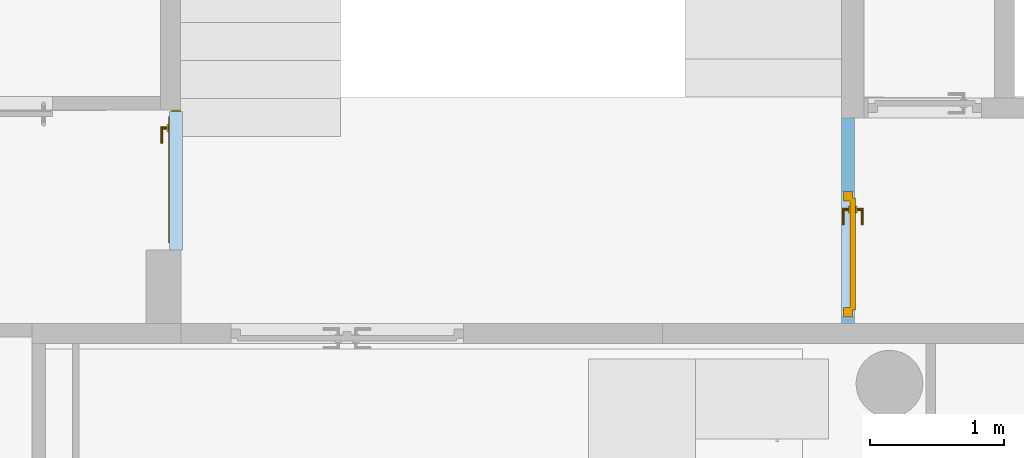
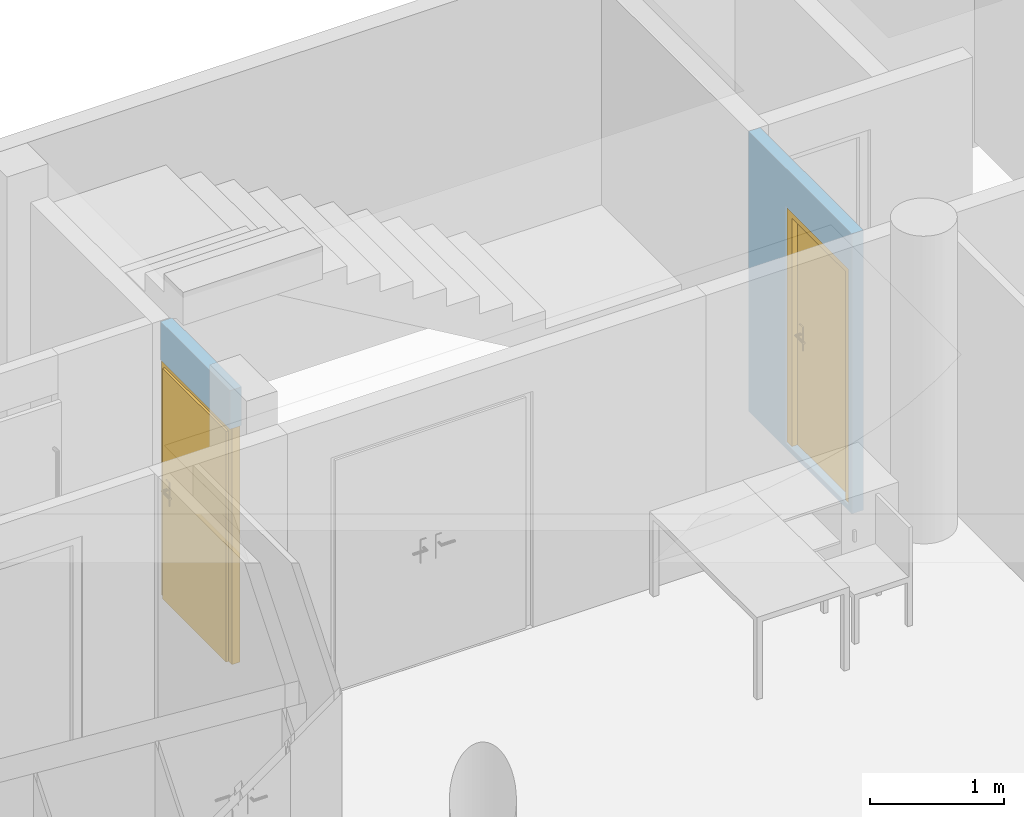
"""IFC4 building model written with IfcOpenShell, lengths in metres."""

from ifc_helpers import new_model, entity, si_unit, converted_unit, derived_unit, frame, frame_2d, origin, origin_with_axes, place, context, subcontext, project, spatial, polyline, rectangle, outline, extrude, faceted_brep, source, transform, mapped, material, layer, layer_set, layer_usage, element, fill, save


model = new_model("IFC4")

# Units and contexts
model_context = context("Model", 3, precision=1e-05, world=origin())
body_context = subcontext(model_context, "Body", "Model", "MODEL_VIEW")
ifc_project = project(units=[si_unit("LENGTHUNIT", "METRE"), si_unit("AREAUNIT", "SQUARE_METRE"), si_unit("VOLUMEUNIT", "CUBIC_METRE"), si_unit("MASSUNIT", "GRAM", prefix="KILO"), converted_unit("PLANEANGLEUNIT", "DEGREE", entity("IfcPlaneAngleMeasure", 0.0174532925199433), si_unit("PLANEANGLEUNIT", "RADIAN"), dimensions=[0, 0, 0, 0, 0, 0, 0]), derived_unit("THERMALTRANSMITTANCEUNIT", [(si_unit("POWERUNIT", "WATT"), 1), (si_unit("THERMODYNAMICTEMPERATUREUNIT", "KELVIN"), -1), (si_unit("LENGTHUNIT", "METRE"), -2)]), derived_unit("VOLUMETRICFLOWRATEUNIT", [(si_unit("LENGTHUNIT", "METRE"), 3), (converted_unit("TIMEUNIT", "hour", entity("IfcTimeMeasure", 3600.0), si_unit("TIMEUNIT", "SECOND"), dimensions=[0, 0, 1, 0, 0, 0, 0]), -1), (si_unit("LENGTHUNIT", "METRE"), -1)])], contexts=[model_context])

# Building, storeys
building_placement = place(None, origin())
building = spatial("IfcBuilding", under=ifc_project, at=building_placement, Name="HABITATGE PLURIFAMILIAR", CompositionType="ELEMENT")
storey_1_placement = place(building_placement, frame((0.0, 0.0, 3.35)))
storey_1 = spatial("IfcBuildingStorey", under=building, at=storey_1_placement, Name="PLANTA  ALTELL", CompositionType="ELEMENT", Elevation=3.35)
storey_2_placement = place(storey_1_placement, origin())
storey_2 = spatial("IfcBuildingStorey", under=storey_1, at=storey_2_placement, Name="NOU", CompositionType="PARTIAL")

# Wall, opening, door
ifc_material_1 = material()
ifc_layer_1 = layer(ifc_material_1, 0.1)
ifc_layer_set_1 = layer_set([ifc_layer_1])
ifc_layer_usage_1 = layer_usage(ifc_layer_set_1, "AXIS2", "POSITIVE", 0.0)
wall_1_placement = place(storey_2_placement, frame((410.842773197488, 24.9023035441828, 0.0), z_axis=(0.0, 0.0, 1.0), x_axis=(0.0, 1.0, 0.0)))
wall_1 = element("IfcWall", 1, at=wall_1_placement, inside=storey_2, material=ifc_layer_usage_1, Name="Evans PA", context=body_context, shape_type="SweptSolid", body=[
    extrude(rectangle(XDim=1.03683267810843, YDim=0.1, at=frame_2d((0.518416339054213, 0.05), x_axis=(1.0, 0.0))), origin_with_axes(), (0.0, 0.0, 1.0), 2.5),
])
opening_1_placement = place(wall_1_placement, frame((0.0, 0.0, 0.0), z_axis=(0.0, 1.0, 0.0), x_axis=(0.0, 0.0, 1.0)))
opening_1 = element("IfcOpeningElement", 2, at=opening_1_placement, cuts=wall_1, Name="Vano de puerta PA", ObjectType="Opening", context=body_context, shape_type="SweptSolid", body=[
    extrude(outline(polyline([(2.15, 1.04683267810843), (2.15, 0.0), (0.0, 0.0), (0.0, 1.04683267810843), (2.15, 1.04683267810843)])), origin_with_axes(), (0.0, 0.0, 1.0), 0.1),
])
shared_shape_1 = source(origin_with_axes(), body_context, "Body", "Brep", [
    faceted_brep([(1.04683267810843, 0.0700000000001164, 2.15), (0.976832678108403, 0.0700000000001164, 2.15), (0.976832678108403, 0.0700000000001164, 0.0), (1.04683267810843, 0.0700000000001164, 0.0), (1.04683267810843, 0.0, 0.0), (0.976832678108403, 0.0, 0.0), (0.976832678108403, 0.0, 2.15), (1.04683267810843, 0.0, 2.15)], [[[0, 1, 2, 3]], [[4, 5, 6, 7]], [[3, 4, 7, 0]], [[2, 5, 4, 3]], [[1, 6, 5, 2]], [[0, 7, 6, 1]]], orient=[[False], [False], [False], [False], [False], [False]]),
    faceted_brep([(0.0700000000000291, 0.0700000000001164, 2.15), (0.0, 0.0700000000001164, 2.15), (0.0, 0.0700000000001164, 0.0), (0.0700000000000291, 0.0700000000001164, 0.0), (0.0700000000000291, 0.0, 0.0), (0.0, 0.0, 0.0), (0.0, 0.0, 2.15), (0.0700000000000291, 0.0, 2.15)], [[[0, 1, 2, 3]], [[4, 5, 6, 7]], [[3, 4, 7, 0]], [[2, 5, 4, 3]], [[1, 6, 5, 2]], [[0, 7, 6, 1]]], orient=[[False], [False], [False], [False], [False], [False]]),
    faceted_brep([(0.976832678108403, 0.0700000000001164, 2.15), (0.0700000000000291, 0.0700000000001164, 2.15), (0.0700000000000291, 0.0700000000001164, 2.08), (0.976832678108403, 0.0700000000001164, 2.08), (0.976832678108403, 0.0, 2.08), (0.0700000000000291, 0.0, 2.08), (0.0700000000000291, 0.0, 2.15), (0.976832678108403, 0.0, 2.15)], [[[0, 1, 2, 3]], [[4, 5, 6, 7]], [[3, 4, 7, 0]], [[2, 5, 4, 3]], [[1, 6, 5, 2]], [[0, 7, 6, 1]]], orient=[[False], [False], [False], [False], [False], [False]]),
    faceted_brep([(0.996832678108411, 0.0900000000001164, 2.1), (0.0500000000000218, 0.0900000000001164, 2.1), (0.0500000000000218, 0.0900000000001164, 0.0), (0.996832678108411, 0.0900000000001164, 0.0), (0.996832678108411, 0.0500000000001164, 0.0), (0.0500000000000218, 0.0500000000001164, 0.0), (0.0500000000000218, 0.0500000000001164, 2.1), (0.996832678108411, 0.0500000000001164, 2.1)], [[[0, 1, 2, 3]], [[4, 5, 6, 7]], [[3, 4, 7, 0]], [[2, 5, 4, 3]], [[1, 6, 5, 2]], [[0, 7, 6, 1]]], orient=[[False], [False], [False], [False], [False], [False]]),
    faceted_brep([(0.936832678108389, 0.0500000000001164, 1.125), (0.886832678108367, 0.0500000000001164, 1.125), (0.886832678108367, 0.0500000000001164, 0.91), (0.936832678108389, 0.0500000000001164, 0.91), (0.936832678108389, 0.0400000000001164, 0.91), (0.886832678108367, 0.0400000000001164, 0.91), (0.886832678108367, 0.0400000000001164, 1.125), (0.936832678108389, 0.0400000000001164, 1.125)], [[[0, 1, 2, 3]], [[4, 5, 6, 7]], [[3, 4, 7, 0]], [[2, 5, 4, 3]], [[1, 6, 5, 2]], [[0, 7, 6, 1]]], orient=[[False], [False], [False], [False], [False], [False]]),
    faceted_brep([(0.911832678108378, 0.0400000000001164, 1.06), (0.906832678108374, 0.0400000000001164, 1.05866025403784), (0.90317242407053, 0.0400000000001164, 1.055), (0.901832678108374, 0.0400000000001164, 1.05), (0.90317242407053, 0.0400000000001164, 1.045), (0.906832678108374, 0.0400000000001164, 1.04133974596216), (0.911832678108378, 0.0400000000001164, 1.04), (0.916832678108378, 0.0400000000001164, 1.04133974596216), (0.920492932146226, 0.0400000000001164, 1.045), (0.921832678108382, 0.0400000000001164, 1.05), (0.920492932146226, 0.0400000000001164, 1.055), (0.916832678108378, 0.0400000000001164, 1.05866025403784), (0.916832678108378, -0.00499999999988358, 1.05866025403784), (0.911832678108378, 0.0, 1.06), (0.920492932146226, -0.00866025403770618, 1.055), (0.921832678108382, -0.00999999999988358, 1.05), (0.920492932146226, -0.00866025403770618, 1.045), (0.916832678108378, -0.00499999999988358, 1.04133974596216), (0.911832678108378, 0.0, 1.04), (0.906832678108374, 0.00500000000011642, 1.04133974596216), (0.90317242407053, 0.00866025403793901, 1.045), (0.901832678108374, 0.0100000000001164, 1.05), (0.90317242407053, 0.00866025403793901, 1.055), (0.906832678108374, 0.00500000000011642, 1.05866025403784), (0.796832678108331, 0.0, 1.06), (0.796832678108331, -0.00499999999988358, 1.05866025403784), (0.796832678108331, -0.00866025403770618, 1.055), (0.796832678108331, -0.00999999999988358, 1.05), (0.796832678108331, -0.00866025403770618, 1.045), (0.796832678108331, -0.00499999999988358, 1.04133974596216), (0.796832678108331, 0.0, 1.04), (0.796832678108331, 0.00500000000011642, 1.04133974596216), (0.796832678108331, 0.00866025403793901, 1.045), (0.796832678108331, 0.0100000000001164, 1.05), (0.796832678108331, 0.00866025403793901, 1.055), (0.796832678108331, 0.00500000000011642, 1.05866025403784)], [[[0, 1, 2, 3, 4, 5, 6, 7, 8, 9, 10, 11]], [[0, 11, 12, 13]], [[11, 10, 14, 12]], [[10, 9, 15, 14]], [[9, 8, 16, 15]], [[8, 7, 17, 16]], [[7, 6, 18, 17]], [[6, 5, 19, 18]], [[5, 4, 20, 19]], [[4, 3, 21, 20]], [[3, 2, 22, 21]], [[2, 1, 23, 22]], [[1, 0, 13, 23]], [[24, 25, 26, 27, 28, 29, 30, 31, 32, 33, 34, 35]], [[13, 12, 25, 24]], [[12, 14, 26, 25]], [[14, 15, 27, 26]], [[15, 16, 28, 27]], [[16, 17, 29, 28]], [[17, 18, 30, 29]], [[18, 19, 31, 30]], [[19, 20, 32, 31]], [[20, 21, 33, 32]], [[21, 22, 34, 33]], [[22, 23, 35, 34]], [[23, 13, 24, 35]]], orient=[[False], [False], [False], [False], [False], [False], [False], [False], [False], [False], [False], [False], [False], [False], [False], [False], [False], [False], [False], [False], [False], [False], [False], [False], [False], [False]]),
    faceted_brep([(0.936832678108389, 0.0900000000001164, 1.125), (0.936832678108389, 0.0900000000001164, 0.91), (0.886832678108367, 0.0900000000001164, 0.91), (0.886832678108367, 0.0900000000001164, 1.125), (0.936832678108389, 0.100000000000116, 0.91), (0.936832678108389, 0.100000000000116, 1.125), (0.886832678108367, 0.100000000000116, 1.125), (0.886832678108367, 0.100000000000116, 0.91)], [[[0, 1, 2, 3]], [[4, 5, 6, 7]], [[1, 0, 5, 4]], [[2, 1, 4, 7]], [[3, 2, 7, 6]], [[0, 3, 6, 5]]], orient=[[False], [False], [False], [False], [False], [False]]),
    faceted_brep([(0.911832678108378, 0.100000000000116, 1.06), (0.916832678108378, 0.100000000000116, 1.05866025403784), (0.920492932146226, 0.100000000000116, 1.055), (0.921832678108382, 0.100000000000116, 1.05), (0.920492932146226, 0.100000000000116, 1.045), (0.916832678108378, 0.100000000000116, 1.04133974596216), (0.911832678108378, 0.100000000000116, 1.04), (0.906832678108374, 0.100000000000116, 1.04133974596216), (0.90317242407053, 0.100000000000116, 1.045), (0.901832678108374, 0.100000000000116, 1.05), (0.90317242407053, 0.100000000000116, 1.055), (0.906832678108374, 0.100000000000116, 1.05866025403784), (0.911832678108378, 0.140000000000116, 1.06), (0.916832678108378, 0.145000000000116, 1.05866025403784), (0.920492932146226, 0.148660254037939, 1.055), (0.921832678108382, 0.150000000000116, 1.05), (0.920492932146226, 0.148660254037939, 1.045), (0.916832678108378, 0.145000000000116, 1.04133974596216), (0.911832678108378, 0.140000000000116, 1.04), (0.906832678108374, 0.135000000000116, 1.04133974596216), (0.90317242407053, 0.131339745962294, 1.045), (0.901832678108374, 0.130000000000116, 1.05), (0.90317242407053, 0.131339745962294, 1.055), (0.906832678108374, 0.135000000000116, 1.05866025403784), (0.796832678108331, 0.140000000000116, 1.06), (0.796832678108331, 0.135000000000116, 1.05866025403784), (0.796832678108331, 0.131339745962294, 1.055), (0.796832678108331, 0.130000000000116, 1.05), (0.796832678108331, 0.131339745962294, 1.045), (0.796832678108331, 0.135000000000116, 1.04133974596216), (0.796832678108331, 0.140000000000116, 1.04), (0.796832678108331, 0.145000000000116, 1.04133974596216), (0.796832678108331, 0.148660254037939, 1.045), (0.796832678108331, 0.150000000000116, 1.05), (0.796832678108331, 0.148660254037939, 1.055), (0.796832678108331, 0.145000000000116, 1.05866025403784)], [[[0, 1, 2, 3, 4, 5, 6, 7, 8, 9, 10, 11]], [[0, 12, 13, 1]], [[1, 13, 14, 2]], [[2, 14, 15, 3]], [[3, 15, 16, 4]], [[4, 16, 17, 5]], [[5, 17, 18, 6]], [[6, 18, 19, 7]], [[7, 19, 20, 8]], [[8, 20, 21, 9]], [[9, 21, 22, 10]], [[10, 22, 23, 11]], [[11, 23, 12, 0]], [[24, 25, 26, 27, 28, 29, 30, 31, 32, 33, 34, 35]], [[12, 24, 35, 13]], [[13, 35, 34, 14]], [[14, 34, 33, 15]], [[15, 33, 32, 16]], [[16, 32, 31, 17]], [[17, 31, 30, 18]], [[18, 30, 29, 19]], [[19, 29, 28, 20]], [[20, 28, 27, 21]], [[21, 27, 26, 22]], [[22, 26, 25, 23]], [[23, 25, 24, 12]]], orient=[[False], [False], [False], [False], [False], [False], [False], [False], [False], [False], [False], [False], [False], [False], [False], [False], [False], [False], [False], [False], [False], [False], [False], [False], [False], [False]]),
])
door_1_placement = place(opening_1_placement, frame((0.0, 0.0, 0.015), z_axis=(1.0, 0.0, 0.0), x_axis=(0.0, 1.0, 0.0)))
door_1 = element("IfcDoor", 3, at=door_1_placement, inside=storey_2, Name="Porta PA", OperationType="USERDEFINED", OverallHeight=2.15, OverallWidth=1.04683, PredefinedType="DOOR", context=body_context, shape_type="MappedRepresentation", body=[
    mapped(shared_shape_1, transform((0.0, 0.0, 0.0), x_axis=(1.0, 0.0, 0.0), y_axis=(0.0, 1.0, 0.0), z_axis=(0.0, 0.0, 1.0), scale=1.0)),
])
fill(opening_1, door_1)

ifc_material_2 = material()
ifc_layer_2 = layer(ifc_material_2, 0.1)
ifc_layer_set_2 = layer_set([ifc_layer_2])
ifc_layer_usage_2 = layer_usage(ifc_layer_set_2, "AXIS2", "POSITIVE", 0.0)
wall_2_placement = place(storey_2_placement, frame((415.876931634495, 24.3495914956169, -0.05), z_axis=(0.0, 0.0, 1.0), x_axis=(0.0, 1.0, 0.0)))
wall_2 = element("IfcWall", 4, at=wall_2_placement, inside=storey_2, material=ifc_layer_usage_2, Name="Evans PA", context=body_context, shape_type="SweptSolid", body=[
    extrude(rectangle(XDim=1.54000000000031, YDim=0.1, at=frame_2d((0.770000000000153, 0.05), x_axis=(1.0, 0.0))), origin_with_axes(), (0.0, 0.0, 1.0), 2.55),
])
opening_2_placement = place(wall_2_placement, frame((0.0499652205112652, 0.0, 0.05), z_axis=(0.0, 1.0, 0.0), x_axis=(0.0, 0.0, 1.0)))
opening_2 = element("IfcOpeningElement", 5, at=opening_2_placement, cuts=wall_2, Name="Vano de puerta PA", ObjectType="Opening", context=body_context, shape_type="SweptSolid", body=[
    extrude(outline(polyline([(2.15, 0.94), (2.15, 0.0), (0.0, 0.0), (0.0, 0.94), (2.15, 0.94)])), origin_with_axes(), (0.0, 0.0, 1.0), 0.1),
])
shared_shape_2 = source(origin_with_axes(), body_context, "Body", "Brep", [
    faceted_brep([(0.0, 0.0699999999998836, 2.15), (0.0, 0.0699999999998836, 0.0), (0.0700000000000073, 0.0699999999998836, 0.0), (0.0700000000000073, 0.0699999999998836, 2.15), (0.0, 0.0, 0.0), (0.0, 0.0, 2.15), (0.0700000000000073, 0.0, 2.15), (0.0700000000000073, 0.0, 0.0)], [[[0, 1, 2, 3]], [[4, 5, 6, 7]], [[1, 0, 5, 4]], [[2, 1, 4, 7]], [[3, 2, 7, 6]], [[0, 3, 6, 5]]], orient=[[False], [False], [False], [False], [False], [False]]),
    faceted_brep([(0.870000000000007, 0.0699999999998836, 2.15), (0.870000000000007, 0.0699999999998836, 0.0), (0.940000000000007, 0.0699999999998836, 0.0), (0.940000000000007, 0.0699999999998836, 2.15), (0.870000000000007, 0.0, 0.0), (0.870000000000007, 0.0, 2.15), (0.940000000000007, 0.0, 2.15), (0.940000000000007, 0.0, 0.0)], [[[0, 1, 2, 3]], [[4, 5, 6, 7]], [[1, 0, 5, 4]], [[2, 1, 4, 7]], [[3, 2, 7, 6]], [[0, 3, 6, 5]]], orient=[[False], [False], [False], [False], [False], [False]]),
    faceted_brep([(0.0700000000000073, 0.0699999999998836, 2.15), (0.0700000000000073, 0.0699999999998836, 2.08), (0.870000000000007, 0.0699999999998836, 2.08), (0.870000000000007, 0.0699999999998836, 2.15), (0.0700000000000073, 0.0, 2.08), (0.0700000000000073, 0.0, 2.15), (0.870000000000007, 0.0, 2.15), (0.870000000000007, 0.0, 2.08)], [[[0, 1, 2, 3]], [[4, 5, 6, 7]], [[1, 0, 5, 4]], [[2, 1, 4, 7]], [[3, 2, 7, 6]], [[0, 3, 6, 5]]], orient=[[False], [False], [False], [False], [False], [False]]),
    faceted_brep([(0.0500000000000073, 0.0899999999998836, 2.1), (0.0500000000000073, 0.0899999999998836, 0.0), (0.890000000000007, 0.0899999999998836, 0.0), (0.890000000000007, 0.0899999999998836, 2.1), (0.0500000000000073, 0.0499999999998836, 0.0), (0.0500000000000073, 0.0499999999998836, 2.1), (0.890000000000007, 0.0499999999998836, 2.1), (0.890000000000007, 0.0499999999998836, 0.0)], [[[0, 1, 2, 3]], [[4, 5, 6, 7]], [[1, 0, 5, 4]], [[2, 1, 4, 7]], [[3, 2, 7, 6]], [[0, 3, 6, 5]]], orient=[[False], [False], [False], [False], [False], [False]]),
    faceted_brep([(0.110000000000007, 0.0499999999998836, 1.125), (0.110000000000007, 0.0499999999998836, 0.91), (0.160000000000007, 0.0499999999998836, 0.91), (0.160000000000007, 0.0499999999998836, 1.125), (0.110000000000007, 0.0399999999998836, 0.91), (0.110000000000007, 0.0399999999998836, 1.125), (0.160000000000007, 0.0399999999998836, 1.125), (0.160000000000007, 0.0399999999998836, 0.91)], [[[0, 1, 2, 3]], [[4, 5, 6, 7]], [[1, 0, 5, 4]], [[2, 1, 4, 7]], [[3, 2, 7, 6]], [[0, 3, 6, 5]]], orient=[[False], [False], [False], [False], [False], [False]]),
    faceted_brep([(0.135000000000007, 0.0399999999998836, 1.06), (0.130000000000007, 0.0399999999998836, 1.05866025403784), (0.126339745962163, 0.0399999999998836, 1.055), (0.125000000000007, 0.0399999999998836, 1.05), (0.126339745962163, 0.0399999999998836, 1.045), (0.130000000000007, 0.0399999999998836, 1.04133974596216), (0.135000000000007, 0.0399999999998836, 1.04), (0.140000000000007, 0.0399999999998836, 1.04133974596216), (0.143660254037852, 0.0399999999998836, 1.045), (0.145000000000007, 0.0399999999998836, 1.05), (0.143660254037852, 0.0399999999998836, 1.055), (0.140000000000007, 0.0399999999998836, 1.05866025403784), (0.135000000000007, 0.0, 1.06), (0.130000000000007, -0.00500000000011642, 1.05866025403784), (0.126339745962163, -0.00866025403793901, 1.055), (0.125000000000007, -0.0100000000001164, 1.05), (0.126339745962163, -0.00866025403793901, 1.045), (0.130000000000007, -0.00500000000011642, 1.04133974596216), (0.135000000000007, 0.0, 1.04), (0.140000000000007, 0.00499999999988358, 1.04133974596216), (0.143660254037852, 0.00866025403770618, 1.045), (0.145000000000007, 0.00999999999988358, 1.05), (0.143660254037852, 0.00866025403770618, 1.055), (0.140000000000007, 0.00499999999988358, 1.05866025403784), (0.250000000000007, 0.0, 1.06), (0.250000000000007, 0.00499999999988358, 1.05866025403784), (0.250000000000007, 0.00866025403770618, 1.055), (0.250000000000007, 0.00999999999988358, 1.05), (0.250000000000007, 0.00866025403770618, 1.045), (0.250000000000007, 0.00499999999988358, 1.04133974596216), (0.250000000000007, 0.0, 1.04), (0.250000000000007, -0.00500000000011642, 1.04133974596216), (0.250000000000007, -0.00866025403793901, 1.045), (0.250000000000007, -0.0100000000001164, 1.05), (0.250000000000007, -0.00866025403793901, 1.055), (0.250000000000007, -0.00500000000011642, 1.05866025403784)], [[[0, 1, 2, 3, 4, 5, 6, 7, 8, 9, 10, 11]], [[0, 12, 13, 1]], [[1, 13, 14, 2]], [[2, 14, 15, 3]], [[3, 15, 16, 4]], [[4, 16, 17, 5]], [[5, 17, 18, 6]], [[6, 18, 19, 7]], [[7, 19, 20, 8]], [[8, 20, 21, 9]], [[9, 21, 22, 10]], [[10, 22, 23, 11]], [[11, 23, 12, 0]], [[24, 25, 26, 27, 28, 29, 30, 31, 32, 33, 34, 35]], [[12, 24, 35, 13]], [[13, 35, 34, 14]], [[14, 34, 33, 15]], [[15, 33, 32, 16]], [[16, 32, 31, 17]], [[17, 31, 30, 18]], [[18, 30, 29, 19]], [[19, 29, 28, 20]], [[20, 28, 27, 21]], [[21, 27, 26, 22]], [[22, 26, 25, 23]], [[23, 25, 24, 12]]], orient=[[False], [False], [False], [False], [False], [False], [False], [False], [False], [False], [False], [False], [False], [False], [False], [False], [False], [False], [False], [False], [False], [False], [False], [False], [False], [False]]),
    faceted_brep([(0.110000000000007, 0.0899999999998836, 1.125), (0.160000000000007, 0.0899999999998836, 1.125), (0.160000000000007, 0.0899999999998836, 0.91), (0.110000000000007, 0.0899999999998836, 0.91), (0.110000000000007, 0.0999999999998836, 0.91), (0.160000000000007, 0.0999999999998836, 0.91), (0.160000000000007, 0.0999999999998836, 1.125), (0.110000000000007, 0.0999999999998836, 1.125)], [[[0, 1, 2, 3]], [[4, 5, 6, 7]], [[3, 4, 7, 0]], [[2, 5, 4, 3]], [[1, 6, 5, 2]], [[0, 7, 6, 1]]], orient=[[False], [False], [False], [False], [False], [False]]),
    faceted_brep([(0.135000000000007, 0.0999999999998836, 1.06), (0.140000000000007, 0.0999999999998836, 1.05866025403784), (0.143660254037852, 0.0999999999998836, 1.055), (0.145000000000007, 0.0999999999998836, 1.05), (0.143660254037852, 0.0999999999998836, 1.045), (0.140000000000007, 0.0999999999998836, 1.04133974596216), (0.135000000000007, 0.0999999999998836, 1.04), (0.130000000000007, 0.0999999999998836, 1.04133974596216), (0.126339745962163, 0.0999999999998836, 1.045), (0.125000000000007, 0.0999999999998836, 1.05), (0.126339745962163, 0.0999999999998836, 1.055), (0.130000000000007, 0.0999999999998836, 1.05866025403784), (0.130000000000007, 0.144999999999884, 1.05866025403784), (0.135000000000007, 0.139999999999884, 1.06), (0.126339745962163, 0.148660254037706, 1.055), (0.125000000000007, 0.149999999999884, 1.05), (0.126339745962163, 0.148660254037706, 1.045), (0.130000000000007, 0.144999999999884, 1.04133974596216), (0.135000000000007, 0.139999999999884, 1.04), (0.140000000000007, 0.134999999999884, 1.04133974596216), (0.143660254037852, 0.131339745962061, 1.045), (0.145000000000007, 0.129999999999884, 1.05), (0.143660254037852, 0.131339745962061, 1.055), (0.140000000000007, 0.134999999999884, 1.05866025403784), (0.250000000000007, 0.139999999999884, 1.06), (0.250000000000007, 0.144999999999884, 1.05866025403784), (0.250000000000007, 0.148660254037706, 1.055), (0.250000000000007, 0.149999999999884, 1.05), (0.250000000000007, 0.148660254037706, 1.045), (0.250000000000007, 0.144999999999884, 1.04133974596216), (0.250000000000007, 0.139999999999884, 1.04), (0.250000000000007, 0.134999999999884, 1.04133974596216), (0.250000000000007, 0.131339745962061, 1.045), (0.250000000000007, 0.129999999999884, 1.05), (0.250000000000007, 0.131339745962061, 1.055), (0.250000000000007, 0.134999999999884, 1.05866025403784)], [[[0, 1, 2, 3, 4, 5, 6, 7, 8, 9, 10, 11]], [[0, 11, 12, 13]], [[11, 10, 14, 12]], [[10, 9, 15, 14]], [[9, 8, 16, 15]], [[8, 7, 17, 16]], [[7, 6, 18, 17]], [[6, 5, 19, 18]], [[5, 4, 20, 19]], [[4, 3, 21, 20]], [[3, 2, 22, 21]], [[2, 1, 23, 22]], [[1, 0, 13, 23]], [[24, 25, 26, 27, 28, 29, 30, 31, 32, 33, 34, 35]], [[13, 12, 25, 24]], [[12, 14, 26, 25]], [[14, 15, 27, 26]], [[15, 16, 28, 27]], [[16, 17, 29, 28]], [[17, 18, 30, 29]], [[18, 19, 31, 30]], [[19, 20, 32, 31]], [[20, 21, 33, 32]], [[21, 22, 34, 33]], [[22, 23, 35, 34]], [[23, 13, 24, 35]]], orient=[[False], [False], [False], [False], [False], [False], [False], [False], [False], [False], [False], [False], [False], [False], [False], [False], [False], [False], [False], [False], [False], [False], [False], [False], [False], [False]]),
])
door_2_placement = place(opening_2_placement, frame((0.0, 0.94, 0.085), z_axis=(1.0, 0.0, 0.0), x_axis=(0.0, -1.0, 0.0)))
door_2 = element("IfcDoor", 6, at=door_2_placement, inside=storey_2, Name="Porta PA", OperationType="USERDEFINED", OverallHeight=2.15, OverallWidth=0.94, PredefinedType="DOOR", context=body_context, shape_type="MappedRepresentation", body=[
    mapped(shared_shape_2, transform((0.0, 0.0, 0.0), x_axis=(1.0, 0.0, 0.0), y_axis=(0.0, 1.0, 0.0), z_axis=(0.0, 0.0, 1.0), scale=1.0)),
])
fill(opening_2, door_2)

save(model, "model.ifc")
